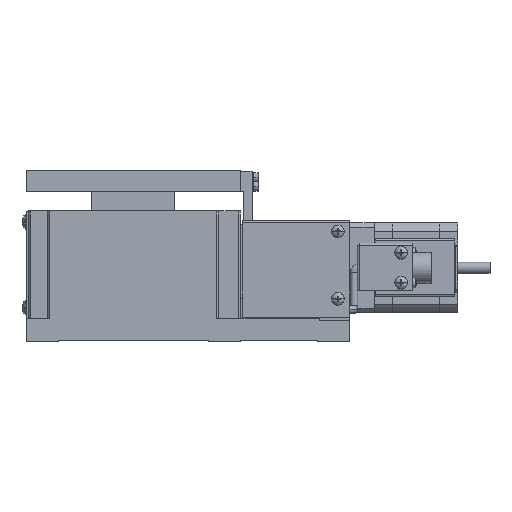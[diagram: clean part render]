
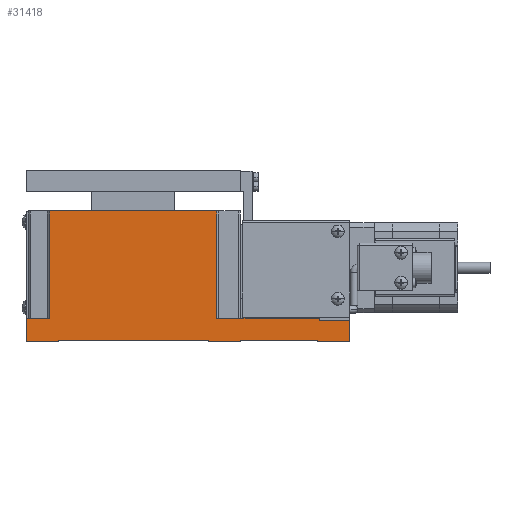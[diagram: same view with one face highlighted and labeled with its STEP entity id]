
A CAD part, front view. The second image highlights one B-rep face of the part: STEP entity #31418.
In plain terms, the highlighted planar face has unit normal (0, -1, 0) as drawn and (0, 1, 0) by its records, which use the part's own axes.
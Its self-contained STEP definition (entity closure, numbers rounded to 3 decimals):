
#473 = DIRECTION ( 'NONE',  ( 0., 0., 1. ) ) ;
#1125 = VERTEX_POINT ( 'NONE', #13346 ) ;
#1558 = EDGE_CURVE ( 'NONE', #32394, #47985, #34196, .T. ) ;
#1595 = VERTEX_POINT ( 'NONE', #46547 ) ;
#1720 = ORIENTED_EDGE ( 'NONE', *, *, #55046, .T. ) ;
#2768 = EDGE_CURVE ( 'NONE', #1125, #21786, #19132, .T. ) ;
#2864 = DIRECTION ( 'NONE',  ( 1., 0., 0. ) ) ;
#3526 = ORIENTED_EDGE ( 'NONE', *, *, #9297, .F. ) ;
#3562 = LINE ( 'NONE', #18288, #57622 ) ;
#3724 = DIRECTION ( 'NONE',  ( 0., 0., -1. ) ) ;
#3764 = VECTOR ( 'NONE', #49704, 1000. ) ;
#4030 = DIRECTION ( 'NONE',  ( 0., 0., 1. ) ) ;
#4804 = CARTESIAN_POINT ( 'NONE',  ( 198.954, -195.588, 91. ) ) ;
#5032 = VECTOR ( 'NONE', #13005, 1000. ) ;
#5752 = CARTESIAN_POINT ( 'NONE',  ( 47.954, -195.588, 80. ) ) ;
#6061 = AXIS2_PLACEMENT_3D ( 'NONE', #22700, #53871, #27012 ) ;
#6345 = ORIENTED_EDGE ( 'NONE', *, *, #41265, .F. ) ;
#6701 = VECTOR ( 'NONE', #45613, 1000. ) ;
#7367 = LINE ( 'NONE', #14683, #37599 ) ;
#7505 = ORIENTED_EDGE ( 'NONE', *, *, #42301, .F. ) ;
#7669 = VECTOR ( 'NONE', #3724, 1000. ) ;
#7711 = CARTESIAN_POINT ( 'NONE',  ( 109.954, -195.588, 141. ) ) ;
#7778 = EDGE_CURVE ( 'NONE', #21885, #47890, #29786, .T. ) ;
#9297 = EDGE_CURVE ( 'NONE', #21786, #54395, #52844, .T. ) ;
#9328 = CARTESIAN_POINT ( 'NONE',  ( 47.954, -195.588, 80. ) ) ;
#9867 = LINE ( 'NONE', #46892, #57582 ) ;
#9905 = CARTESIAN_POINT ( 'NONE',  ( 113.954, -195.588, 80. ) ) ;
#10751 = CARTESIAN_POINT ( 'NONE',  ( 62.954, -195.588, 80. ) ) ;
#11091 = ORIENTED_EDGE ( 'NONE', *, *, #1558, .T. ) ;
#11426 = VECTOR ( 'NONE', #15000, 1000. ) ;
#11556 = ORIENTED_EDGE ( 'NONE', *, *, #14397, .T. ) ;
#12007 = CARTESIAN_POINT ( 'NONE',  ( 61.954, -195.588, 90. ) ) ;
#12015 = VECTOR ( 'NONE', #12803, 1000. ) ;
#12579 = VERTEX_POINT ( 'NONE', #46803 ) ;
#12664 = EDGE_CURVE ( 'NONE', #46738, #40435, #39024, .T. ) ;
#12803 = DIRECTION ( 'NONE',  ( 0., 0., 1. ) ) ;
#13005 = DIRECTION ( 'NONE',  ( 0., 0., 1. ) ) ;
#13346 = CARTESIAN_POINT ( 'NONE',  ( 183.954, -195.588, 80. ) ) ;
#14397 = EDGE_CURVE ( 'NONE', #49655, #32394, #35339, .T. ) ;
#14683 = CARTESIAN_POINT ( 'NONE',  ( 47.954, -195.588, 91. ) ) ;
#15000 = DIRECTION ( 'NONE',  ( 1., 0., 0. ) ) ;
#15372 = ORIENTED_EDGE ( 'NONE', *, *, #38724, .F. ) ;
#15959 = CARTESIAN_POINT ( 'NONE',  ( 113.954, -195.588, 80.5 ) ) ;
#16229 = LINE ( 'NONE', #34573, #19073 ) ;
#16616 = CARTESIAN_POINT ( 'NONE',  ( 47.954, -195.588, 80. ) ) ;
#16989 = ORIENTED_EDGE ( 'NONE', *, *, #7778, .F. ) ;
#17109 = CARTESIAN_POINT ( 'NONE',  ( 198.954, -195.588, 80. ) ) ;
#17488 = CARTESIAN_POINT ( 'NONE',  ( 47.954, -195.588, 90. ) ) ;
#17636 = VERTEX_POINT ( 'NONE', #41293 ) ;
#17678 = ORIENTED_EDGE ( 'NONE', *, *, #30235, .T. ) ;
#18288 = CARTESIAN_POINT ( 'NONE',  ( 47.954, -195.588, 91. ) ) ;
#19073 = VECTOR ( 'NONE', #57664, 1000. ) ;
#19132 = LINE ( 'NONE', #5752, #11426 ) ;
#19479 = ORIENTED_EDGE ( 'NONE', *, *, #51935, .F. ) ;
#20071 = LINE ( 'NONE', #29793, #42560 ) ;
#20315 = VECTOR ( 'NONE', #51728, 1000. ) ;
#20465 = LINE ( 'NONE', #7711, #12015 ) ;
#21786 = VERTEX_POINT ( 'NONE', #50748 ) ;
#21885 = VERTEX_POINT ( 'NONE', #10751 ) ;
#22629 = DIRECTION ( 'NONE',  ( 1., 0., 0. ) ) ;
#22700 = CARTESIAN_POINT ( 'NONE',  ( 47.954, -195.588, 80. ) ) ;
#22809 = VERTEX_POINT ( 'NONE', #33164 ) ;
#23188 = ORIENTED_EDGE ( 'NONE', *, *, #50654, .T. ) ;
#23809 = CARTESIAN_POINT ( 'NONE',  ( 62.954, -195.588, 80.5 ) ) ;
#24041 = EDGE_CURVE ( 'NONE', #47890, #44434, #16229, .T. ) ;
#24212 = VERTEX_POINT ( 'NONE', #44930 ) ;
#26275 = VECTOR ( 'NONE', #56705, 1000. ) ;
#27012 = DIRECTION ( 'NONE',  ( -1., 0., 0. ) ) ;
#27224 = VERTEX_POINT ( 'NONE', #40647 ) ;
#27284 = CARTESIAN_POINT ( 'NONE',  ( 47.954, -195.588, 90. ) ) ;
#27571 = EDGE_CURVE ( 'NONE', #27224, #12579, #20071, .T. ) ;
#27825 = EDGE_CURVE ( 'NONE', #12579, #22809, #41906, .T. ) ;
#28241 = ORIENTED_EDGE ( 'NONE', *, *, #24041, .F. ) ;
#29786 = LINE ( 'NONE', #42818, #26275 ) ;
#29793 = CARTESIAN_POINT ( 'NONE',  ( 108.954, -195.588, 141. ) ) ;
#29964 = VECTOR ( 'NONE', #50501, 1000. ) ;
#30235 = EDGE_CURVE ( 'NONE', #53585, #27224, #20465, .T. ) ;
#31418 = ADVANCED_FACE ( 'NONE', ( #32303 ), #40380, .T. ) ;
#31793 = ORIENTED_EDGE ( 'NONE', *, *, #12664, .F. ) ;
#32303 = FACE_OUTER_BOUND ( 'NONE', #43936, .T. ) ;
#32394 = VERTEX_POINT ( 'NONE', #12007 ) ;
#33164 = CARTESIAN_POINT ( 'NONE',  ( 187.954, -195.588, 91. ) ) ;
#33191 = ORIENTED_EDGE ( 'NONE', *, *, #2768, .F. ) ;
#33352 = LINE ( 'NONE', #9328, #3764 ) ;
#34196 = LINE ( 'NONE', #39795, #46782 ) ;
#34573 = CARTESIAN_POINT ( 'NONE',  ( 62.954, -195.588, 80.5 ) ) ;
#35339 = LINE ( 'NONE', #17488, #43017 ) ;
#37599 = VECTOR ( 'NONE', #41405, 1000. ) ;
#37789 = ORIENTED_EDGE ( 'NONE', *, *, #27825, .T. ) ;
#38724 = EDGE_CURVE ( 'NONE', #44434, #17636, #50443, .T. ) ;
#38894 = CARTESIAN_POINT ( 'NONE',  ( 61.954, -195.588, 91. ) ) ;
#39024 = LINE ( 'NONE', #15959, #53733 ) ;
#39795 = CARTESIAN_POINT ( 'NONE',  ( 61.954, -195.588, 80. ) ) ;
#40380 = PLANE ( 'NONE',  #6061 ) ;
#40435 = VERTEX_POINT ( 'NONE', #56052 ) ;
#40647 = CARTESIAN_POINT ( 'NONE',  ( 109.954, -195.588, 141. ) ) ;
#41265 = EDGE_CURVE ( 'NONE', #1595, #46738, #57251, .T. ) ;
#41293 = CARTESIAN_POINT ( 'NONE',  ( 98.954, -195.588, 80. ) ) ;
#41405 = DIRECTION ( 'NONE',  ( 1., 0., 0. ) ) ;
#41896 = LINE ( 'NONE', #49528, #50285 ) ;
#41906 = LINE ( 'NONE', #51089, #29964 ) ;
#42301 = EDGE_CURVE ( 'NONE', #24212, #21885, #33352, .T. ) ;
#42560 = VECTOR ( 'NONE', #2864, 1000. ) ;
#42818 = CARTESIAN_POINT ( 'NONE',  ( 62.954, -195.588, 80. ) ) ;
#43017 = VECTOR ( 'NONE', #48509, 1000. ) ;
#43610 = ORIENTED_EDGE ( 'NONE', *, *, #27571, .T. ) ;
#43691 = ORIENTED_EDGE ( 'NONE', *, *, #52085, .F. ) ;
#43936 = EDGE_LOOP ( 'NONE', ( #17678, #43610, #37789, #1720, #3526, #33191, #19479, #31793, #6345, #43691, #15372, #28241, #16989, #7505, #48858, #11556, #11091, #23188 ) ) ;
#44191 = CARTESIAN_POINT ( 'NONE',  ( 98.954, -195.588, 80.5 ) ) ;
#44434 = VERTEX_POINT ( 'NONE', #52855 ) ;
#44930 = CARTESIAN_POINT ( 'NONE',  ( 47.954, -195.588, 80. ) ) ;
#45613 = DIRECTION ( 'NONE',  ( 0., 0., 1. ) ) ;
#46151 = CARTESIAN_POINT ( 'NONE',  ( 109.954, -195.588, 91. ) ) ;
#46547 = CARTESIAN_POINT ( 'NONE',  ( 113.954, -195.588, 80. ) ) ;
#46738 = VERTEX_POINT ( 'NONE', #50862 ) ;
#46782 = VECTOR ( 'NONE', #4030, 1000. ) ;
#46803 = CARTESIAN_POINT ( 'NONE',  ( 187.954, -195.588, 141. ) ) ;
#46892 = CARTESIAN_POINT ( 'NONE',  ( 183.954, -195.588, 80.5 ) ) ;
#47371 = DIRECTION ( 'NONE',  ( 1., 0., 0. ) ) ;
#47726 = LINE ( 'NONE', #16616, #20315 ) ;
#47890 = VERTEX_POINT ( 'NONE', #23809 ) ;
#47985 = VERTEX_POINT ( 'NONE', #38894 ) ;
#48509 = DIRECTION ( 'NONE',  ( 1., 0., 0. ) ) ;
#48858 = ORIENTED_EDGE ( 'NONE', *, *, #56593, .T. ) ;
#49528 = CARTESIAN_POINT ( 'NONE',  ( 47.954, -195.588, 80. ) ) ;
#49655 = VERTEX_POINT ( 'NONE', #27284 ) ;
#49704 = DIRECTION ( 'NONE',  ( 1., 0., 0. ) ) ;
#50285 = VECTOR ( 'NONE', #473, 1000. ) ;
#50443 = LINE ( 'NONE', #44191, #7669 ) ;
#50501 = DIRECTION ( 'NONE',  ( 0., 0., -1. ) ) ;
#50654 = EDGE_CURVE ( 'NONE', #47985, #53585, #3562, .T. ) ;
#50748 = CARTESIAN_POINT ( 'NONE',  ( 198.954, -195.588, 80. ) ) ;
#50782 = DIRECTION ( 'NONE',  ( 0., 0., -1. ) ) ;
#50862 = CARTESIAN_POINT ( 'NONE',  ( 113.954, -195.588, 80.5 ) ) ;
#51089 = CARTESIAN_POINT ( 'NONE',  ( 187.954, -195.588, 141. ) ) ;
#51728 = DIRECTION ( 'NONE',  ( 1., 0., 0. ) ) ;
#51935 = EDGE_CURVE ( 'NONE', #40435, #1125, #9867, .T. ) ;
#52085 = EDGE_CURVE ( 'NONE', #17636, #1595, #47726, .T. ) ;
#52844 = LINE ( 'NONE', #17109, #5032 ) ;
#52855 = CARTESIAN_POINT ( 'NONE',  ( 98.954, -195.588, 80.5 ) ) ;
#53585 = VERTEX_POINT ( 'NONE', #46151 ) ;
#53733 = VECTOR ( 'NONE', #47371, 1000. ) ;
#53871 = DIRECTION ( 'NONE',  ( 0., 1., 0. ) ) ;
#54395 = VERTEX_POINT ( 'NONE', #4804 ) ;
#55046 = EDGE_CURVE ( 'NONE', #22809, #54395, #7367, .T. ) ;
#56052 = CARTESIAN_POINT ( 'NONE',  ( 183.954, -195.588, 80.5 ) ) ;
#56593 = EDGE_CURVE ( 'NONE', #24212, #49655, #41896, .T. ) ;
#56705 = DIRECTION ( 'NONE',  ( 0., 0., 1. ) ) ;
#57251 = LINE ( 'NONE', #9905, #6701 ) ;
#57582 = VECTOR ( 'NONE', #50782, 1000. ) ;
#57622 = VECTOR ( 'NONE', #22629, 1000. ) ;
#57664 = DIRECTION ( 'NONE',  ( 1., 0., 0. ) ) ;
